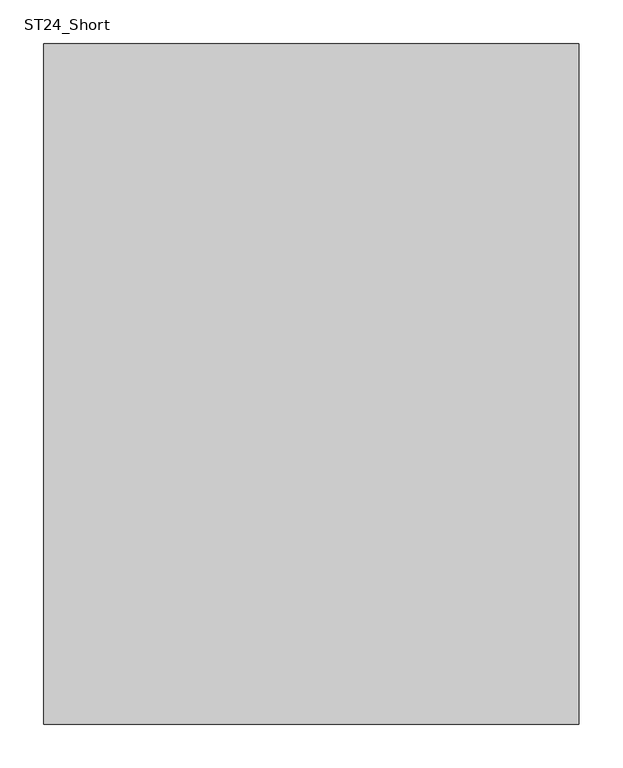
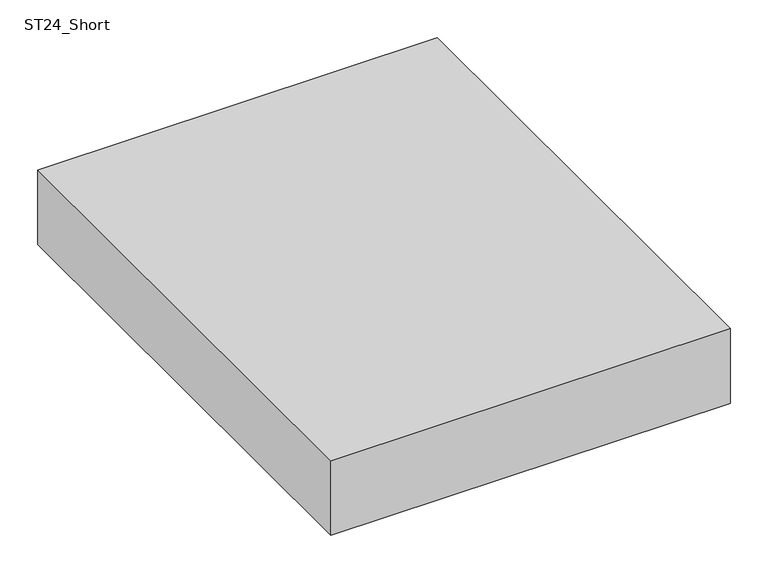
"""IFC4 building model written with IfcOpenShell, lengths in millimetres: furniture geometry, Memo_Candy_Table_Straight : ST24_Short."""

from ifc_helpers import new_model, si_unit, point, frame, frame_2d, origin, origin_with_axes, place, context, project, spatial, polyline, circle_curve, trimmed, segment, composite_curve, outline, extrude, source, transform, mapped, element, save


def st24_short_014de74c(model_context):
    return source(origin(), model_context, "Body", "SweptSolid", [
        extrude(outline(composite_curve([segment(trimmed(circle_curve(frame_2d((247.65, 323.85)), 14.2875), [point((233.3625, 323.85))], [point((261.9375, 323.85))], False, "CARTESIAN"), True, "CONTINUOUS"), segment(trimmed(circle_curve(frame_2d((247.65, 323.85)), 14.2875), [point((261.9375, 323.85))], [point((233.3625, 323.85))], False, "CARTESIAN"), True, "CONTINUOUS")], self_intersect=False)), origin_with_axes(), (0.0, 0.0, 1.0), 10.2362),
        extrude(outline(composite_curve([segment(trimmed(circle_curve(frame_2d((247.65, -349.25)), 14.2875), [point((233.3625, -349.25))], [point((261.9375, -349.25))], False, "CARTESIAN"), True, "CONTINUOUS"), segment(trimmed(circle_curve(frame_2d((247.65, -349.25)), 14.2875), [point((261.9375, -349.25))], [point((233.3625, -349.25))], False, "CARTESIAN"), True, "CONTINUOUS")], self_intersect=False)), origin_with_axes(), (0.0, 0.0, 1.0), 10.2362),
        extrude(outline(composite_curve([segment(trimmed(circle_curve(frame_2d((-247.65, 323.85)), 14.2875), [point((-261.9375, 323.85))], [point((-233.3625, 323.85))], False, "CARTESIAN"), True, "CONTINUOUS"), segment(trimmed(circle_curve(frame_2d((-247.65, 323.85)), 14.2875), [point((-233.3625, 323.85))], [point((-261.9375, 323.85))], False, "CARTESIAN"), True, "CONTINUOUS")], self_intersect=False)), origin_with_axes(), (0.0, 0.0, 1.0), 10.2362),
        extrude(outline(composite_curve([segment(trimmed(circle_curve(frame_2d((-247.65, -349.25)), 14.2875), [point((-261.9375, -349.25))], [point((-233.3625, -349.25))], False, "CARTESIAN"), True, "CONTINUOUS"), segment(trimmed(circle_curve(frame_2d((-247.65, -349.25)), 14.2875), [point((-233.3625, -349.25))], [point((-261.9375, -349.25))], False, "CARTESIAN"), True, "CONTINUOUS")], self_intersect=False)), origin_with_axes(), (0.0, 0.0, 1.0), 10.2362),
        extrude(outline(polyline([(304.8, -400.05), (-304.8, -400.05), (-304.8, 374.65), (304.8, 374.65), (304.8, -400.05)])), frame((0.0, 0.0, 10.2362), z_axis=(0.0, 0.0, 1.0), x_axis=(1.0, 0.0, 0.0)), (0.0, 0.0, 1.0), 120.65),
    ])


if __name__ == "__main__":
    model = new_model("IFC4")
    model_context = context("Model", 3, world=origin())
    ifc_project = project(units=[si_unit("LENGTHUNIT", "METRE", prefix="MILLI")], contexts=[model_context])
    site = spatial("IfcSite", under=ifc_project)
    building = spatial("IfcBuilding", under=site)
    placement = place(None, origin())
    st24_short_shape = st24_short_014de74c(model_context)
    element("IfcFurniture", 1, ObjectType="Memo_Candy_Table_Straight : ST24_Short", at=placement, inside=building, context=model_context, shape_type="MappedRepresentation", body=[
        mapped(st24_short_shape, transform((0.0, 0.0, 0.0), x_axis=(1.0, 0.0, 0.0), y_axis=(0.0, 1.0, 0.0), z_axis=(0.0, 0.0, 1.0))),
    ])
    save(model, "model.ifc")
